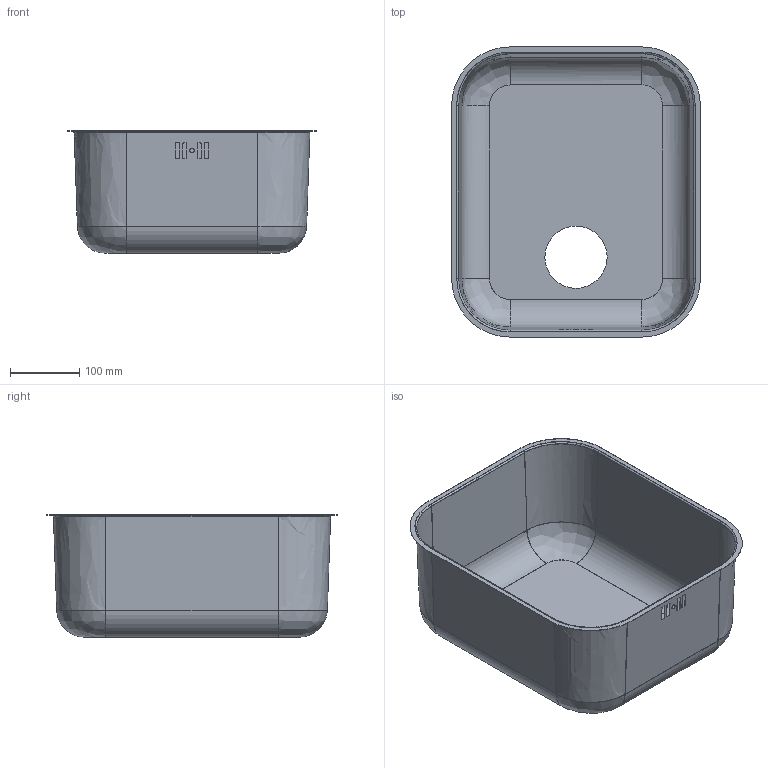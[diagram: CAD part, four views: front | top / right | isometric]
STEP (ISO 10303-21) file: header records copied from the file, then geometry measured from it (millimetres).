
FILE_DESCRIPTION((''),'1');
FILE_NAME('C:/Users/linop/Desktop/UM40.stp','2018-02-26T08:56:58',(''),(''),'Spatial Interop R20 SP1','Kubotek KeyCreator V9.0.3 (16864)',' ');
FILE_SCHEMA(('CONFIG_CONTROL_DESIGN'));
Length unit declared in the file: millimetre
Products named in the file (1): 1
Bounding box: 360 x 420 x 177 mm (x, y, z)
Volume: 205505.3 mm3; surface area: 686185.9 mm2
Topology: 1 solids, 1 shells, 97 faces, 253 edges, 160 vertices
Faces by surface type: bspline 44, plane 32, cylinder 21
Full cylindrical faces by diameter (mm): 90 x1
Entity records: 8039 total; most frequent: CARTESIAN_POINT 5928, ORIENTED_EDGE 504, DIRECTION 277, EDGE_CURVE 252, VERTEX_POINT 160, LINE 123, VECTOR 123, EDGE_LOOP 112
